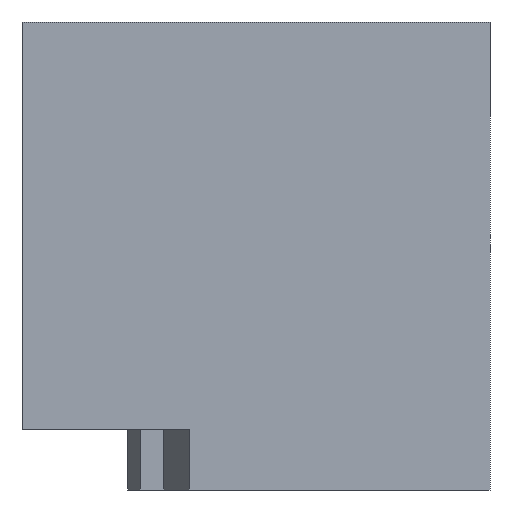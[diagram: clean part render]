
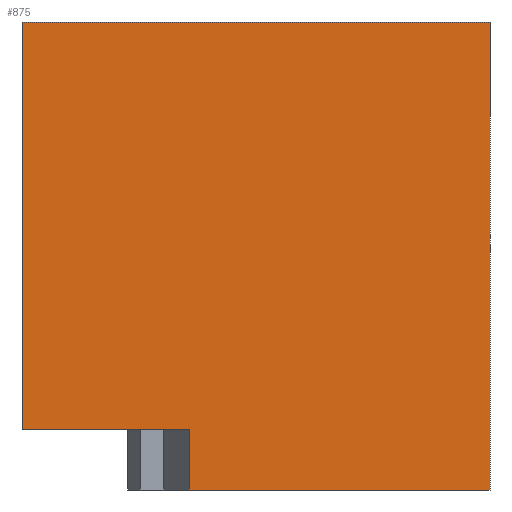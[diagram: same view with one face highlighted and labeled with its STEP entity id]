
A CAD part, left-side view. The second image highlights one B-rep face of the part: STEP entity #875.
In plain terms, the highlighted planar face has unit normal (-1, 0, 0).
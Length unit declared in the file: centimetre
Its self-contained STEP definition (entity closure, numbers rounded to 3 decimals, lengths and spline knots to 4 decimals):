
#1 = LINE ( 'NONE', #91, #172 ) ;
#7 = VECTOR ( 'NONE', #357, 100. ) ;
#20 = ORIENTED_EDGE ( 'NONE', *, *, #871, .T. ) ;
#30 = CARTESIAN_POINT ( 'NONE',  ( 0., 1000., 0. ) ) ;
#36 = CARTESIAN_POINT ( 'NONE',  ( 0., 1000., 128.9986 ) ) ;
#84 = DIRECTION ( 'NONE',  ( 0., -1., 0. ) ) ;
#87 = LINE ( 'NONE', #723, #642 ) ;
#91 = CARTESIAN_POINT ( 'NONE',  ( 0., 1000., 1000. ) ) ;
#93 = EDGE_CURVE ( 'NONE', #545, #486, #602, .T. ) ;
#101 = CARTESIAN_POINT ( 'NONE',  ( 0., 0., 0. ) ) ;
#171 = CARTESIAN_POINT ( 'NONE',  ( 0., 642.3988, 128.9986 ) ) ;
#172 = VECTOR ( 'NONE', #84, 100. ) ;
#198 = VERTEX_POINT ( 'NONE', #597 ) ;
#231 = DIRECTION ( 'NONE',  ( 0., 0., -1. ) ) ;
#241 = ORIENTED_EDGE ( 'NONE', *, *, #564, .T. ) ;
#286 = ORIENTED_EDGE ( 'NONE', *, *, #735, .F. ) ;
#317 = DIRECTION ( 'NONE',  ( 0., -1., 0. ) ) ;
#357 = DIRECTION ( 'NONE',  ( 0., 0., -1. ) ) ;
#358 = CARTESIAN_POINT ( 'NONE',  ( 0., 642.3988, 0. ) ) ;
#364 = VECTOR ( 'NONE', #892, 100. ) ;
#373 = FACE_OUTER_BOUND ( 'NONE', #604, .T. ) ;
#392 = CARTESIAN_POINT ( 'NONE',  ( 0., 0., 1000. ) ) ;
#397 = EDGE_CURVE ( 'NONE', #899, #922, #733, .T. ) ;
#404 = ORIENTED_EDGE ( 'NONE', *, *, #397, .F. ) ;
#449 = VECTOR ( 'NONE', #317, 100. ) ;
#463 = DIRECTION ( 'NONE',  ( 0., 0., -1. ) ) ;
#464 = EDGE_CURVE ( 'NONE', #745, #922, #738, .T. ) ;
#484 = ORIENTED_EDGE ( 'NONE', *, *, #464, .T. ) ;
#486 = VERTEX_POINT ( 'NONE', #36 ) ;
#517 = CARTESIAN_POINT ( 'NONE',  ( 0., 1000., 1000. ) ) ;
#545 = VERTEX_POINT ( 'NONE', #619 ) ;
#564 = EDGE_CURVE ( 'NONE', #545, #745, #847, .T. ) ;
#597 = CARTESIAN_POINT ( 'NONE',  ( 0., 1000., 1000. ) ) ;
#602 = LINE ( 'NONE', #171, #364 ) ;
#604 = EDGE_LOOP ( 'NONE', ( #768, #241, #484, #404, #286, #20 ) ) ;
#619 = CARTESIAN_POINT ( 'NONE',  ( 0., 642.3988, 128.9986 ) ) ;
#642 = VECTOR ( 'NONE', #231, 100. ) ;
#648 = PLANE ( 'NONE',  #714 ) ;
#679 = DIRECTION ( 'NONE',  ( 1., 0., 0. ) ) ;
#709 = VECTOR ( 'NONE', #463, 100. ) ;
#714 = AXIS2_PLACEMENT_3D ( 'NONE', #517, #679, #876 ) ;
#723 = CARTESIAN_POINT ( 'NONE',  ( 0., 1000., 1000. ) ) ;
#733 = LINE ( 'NONE', #392, #709 ) ;
#735 = EDGE_CURVE ( 'NONE', #198, #899, #1, .T. ) ;
#738 = LINE ( 'NONE', #30, #449 ) ;
#745 = VERTEX_POINT ( 'NONE', #358 ) ;
#768 = ORIENTED_EDGE ( 'NONE', *, *, #93, .F. ) ;
#810 = CARTESIAN_POINT ( 'NONE',  ( 0., 0., 1000. ) ) ;
#841 = CARTESIAN_POINT ( 'NONE',  ( 0., 642.3988, 128.9986 ) ) ;
#847 = LINE ( 'NONE', #841, #7 ) ;
#871 = EDGE_CURVE ( 'NONE', #198, #486, #87, .T. ) ;
#875 = ADVANCED_FACE ( 'NONE', ( #373 ), #648, .F. ) ;
#876 = DIRECTION ( 'NONE',  ( 0., 0., -1. ) ) ;
#892 = DIRECTION ( 'NONE',  ( 0., 1., 0. ) ) ;
#899 = VERTEX_POINT ( 'NONE', #810 ) ;
#922 = VERTEX_POINT ( 'NONE', #101 ) ;
